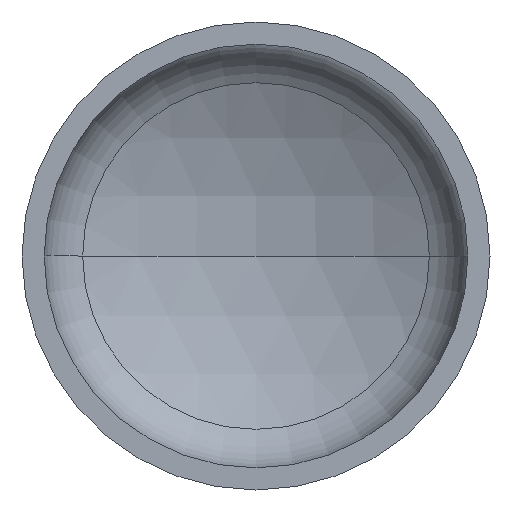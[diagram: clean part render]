
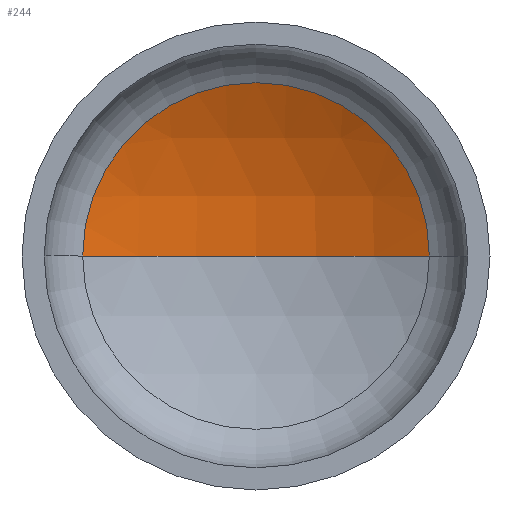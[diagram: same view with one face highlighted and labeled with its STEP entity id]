
A CAD part, front view. The second image highlights one B-rep face of the part: STEP entity #244.
In plain terms, the highlighted spherical face has radius 406 mm.
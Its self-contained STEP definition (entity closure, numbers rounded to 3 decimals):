
#4 = AXIS2_PLACEMENT_3D ( 'NONE', #26, #274, #110 ) ;
#14 = AXIS2_PLACEMENT_3D ( 'NONE', #160, #270, #399 ) ;
#18 = AXIS2_PLACEMENT_3D ( 'NONE', #326, #214, #257 ) ;
#20 = EDGE_LOOP ( 'NONE', ( #154, #122, #104 ) ) ;
#26 = CARTESIAN_POINT ( 'NONE',  ( 0., 144.119, 0. ) ) ;
#30 = VERTEX_POINT ( 'NONE', #233 ) ;
#60 = VERTEX_POINT ( 'NONE', #230 ) ;
#68 = AXIS2_PLACEMENT_3D ( 'NONE', #140, #70, #212 ) ;
#70 = DIRECTION ( 'NONE',  ( 0., 0., -1. ) ) ;
#104 = ORIENTED_EDGE ( 'NONE', *, *, #363, .T. ) ;
#110 = DIRECTION ( 'NONE',  ( 1., 0., 0. ) ) ;
#121 = VERTEX_POINT ( 'NONE', #369 ) ;
#122 = ORIENTED_EDGE ( 'NONE', *, *, #350, .T. ) ;
#140 = CARTESIAN_POINT ( 'NONE',  ( 0., -215.654, 0. ) ) ;
#144 = CIRCLE ( 'NONE', #18, 406. ) ;
#154 = ORIENTED_EDGE ( 'NONE', *, *, #357, .F. ) ;
#160 = CARTESIAN_POINT ( 'NONE',  ( 0., -215.654, 0. ) ) ;
#177 = SPHERICAL_SURFACE ( 'NONE', #68, 406. ) ;
#203 = CIRCLE ( 'NONE', #4, 188.146 ) ;
#212 = DIRECTION ( 'NONE',  ( -1., 0., 0. ) ) ;
#214 = DIRECTION ( 'NONE',  ( 0., 0., -1. ) ) ;
#230 = CARTESIAN_POINT ( 'NONE',  ( 188.146, 144.119, 0. ) ) ;
#233 = CARTESIAN_POINT ( 'NONE',  ( -188.146, 144.119, 0. ) ) ;
#244 = ADVANCED_FACE ( 'NONE', ( #377 ), #177, .F. ) ;
#257 = DIRECTION ( 'NONE',  ( -1., 0., 0. ) ) ;
#262 = CIRCLE ( 'NONE', #14, 406. ) ;
#270 = DIRECTION ( 'NONE',  ( 0., 0., 1. ) ) ;
#274 = DIRECTION ( 'NONE',  ( 0., -1., 0. ) ) ;
#326 = CARTESIAN_POINT ( 'NONE',  ( 0., -215.654, 0. ) ) ;
#350 = EDGE_CURVE ( 'NONE', #121, #60, #144, .T. ) ;
#357 = EDGE_CURVE ( 'NONE', #121, #30, #262, .T. ) ;
#363 = EDGE_CURVE ( 'NONE', #60, #30, #203, .T. ) ;
#369 = CARTESIAN_POINT ( 'NONE',  ( 0., 190.346, 0. ) ) ;
#377 = FACE_OUTER_BOUND ( 'NONE', #20, .T. ) ;
#399 = DIRECTION ( 'NONE',  ( 1., 0., 0. ) ) ;
